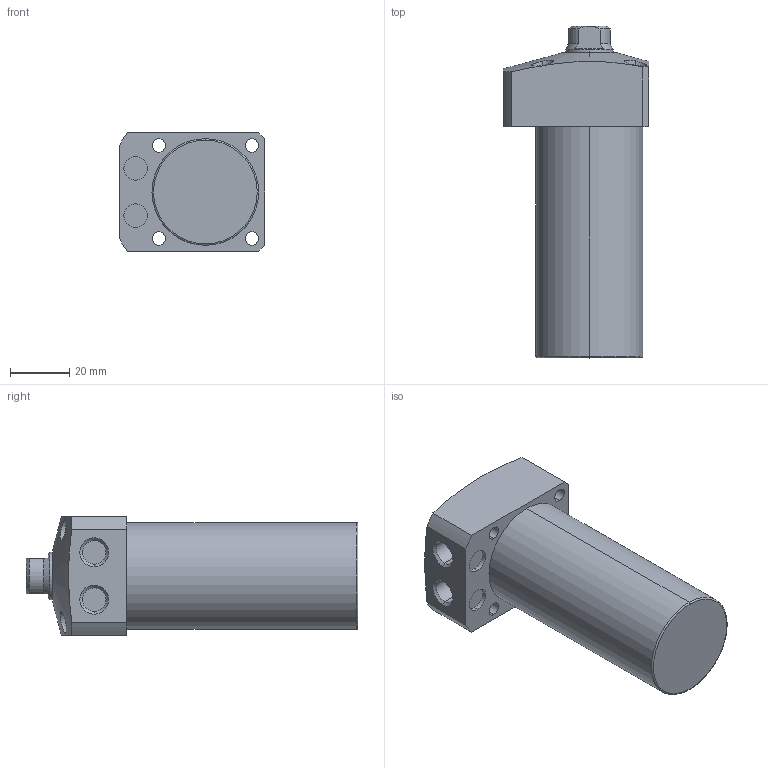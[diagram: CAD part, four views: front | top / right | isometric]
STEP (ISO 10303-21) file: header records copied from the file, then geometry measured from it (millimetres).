
FILE_DESCRIPTION (( 'STEP AP203' ), '1' );
FILE_NAME ('CLL-036CA-055.STEP', '2019-12-20T08:52:52', ( '' ), ( '' ), 'SwSTEP 2.0', 'SolidWorks 2015', '' );
FILE_SCHEMA (( 'CONFIG_CONTROL_DESIGN' ));
Length unit declared in the file: millimetre
Products named in the file (1): CLL-036CA-055
Bounding box: 49 x 112 x 40 mm (x, y, z)
Volume: 120836.8 mm3; surface area: 18997.1 mm2
Topology: 1 solids, 1 shells, 72 faces, 166 edges, 105 vertices
Faces by surface type: cylinder 34, plane 22, cone 14, torus 2
Entity records: 2453 total; most frequent: CARTESIAN_POINT 708, DIRECTION 364, ORIENTED_EDGE 328, EDGE_CURVE 164, AXIS2_PLACEMENT_3D 151, VERTEX_POINT 105, EDGE_LOOP 91, CIRCLE 78
